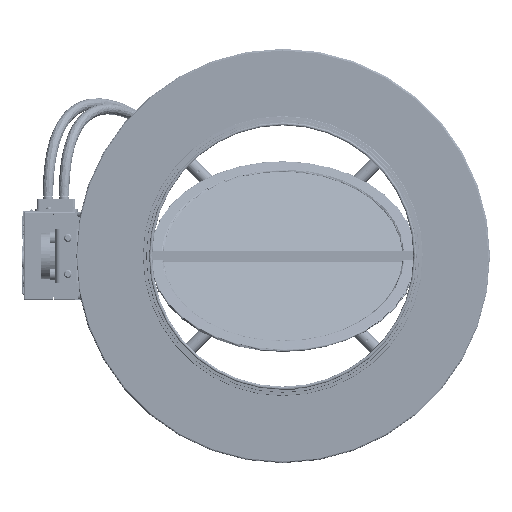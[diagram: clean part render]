
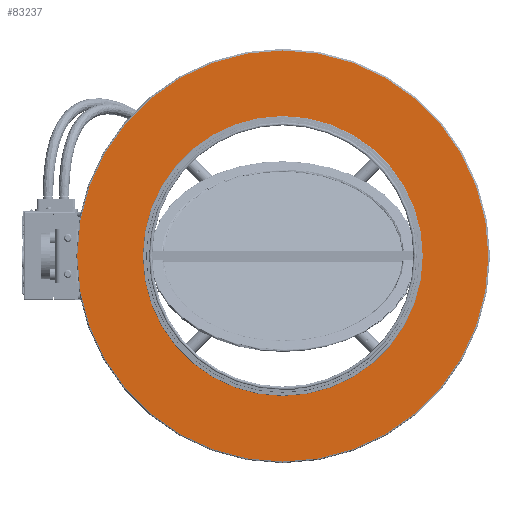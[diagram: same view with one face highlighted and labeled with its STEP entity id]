
A CAD part, left-side view. The second image highlights one B-rep face of the part: STEP entity #83237.
In plain terms, the highlighted planar face has unit normal (-1, 0, 0) as drawn and (0, -1, 0) by its records, which use the part's own axes.
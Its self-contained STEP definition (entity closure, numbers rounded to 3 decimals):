
#15656 = EDGE_CURVE ( 'NONE', #213957, #213957, #284507, .T. ) ;
#23297 = DIRECTION ( 'NONE',  ( 0., -1., 0. ) ) ;
#27935 = EDGE_CURVE ( 'NONE', #181558, #181558, #356322, .T. ) ;
#49899 = DIRECTION ( 'NONE',  ( 1., 0., 0. ) ) ;
#55758 = PLANE ( 'NONE',  #221061 ) ;
#83237 = ADVANCED_FACE ( 'NONE', ( #109394, #317814 ), #55758, .T. ) ;
#93558 = CARTESIAN_POINT ( 'NONE',  ( 104., 0., 0. ) ) ;
#105430 = DIRECTION ( 'NONE',  ( 0., -1., 0. ) ) ;
#109394 = FACE_OUTER_BOUND ( 'NONE', #275176, .T. ) ;
#120837 = CARTESIAN_POINT ( 'NONE',  ( -50., 0., 0. ) ) ;
#133724 = ORIENTED_EDGE ( 'NONE', *, *, #15656, .T. ) ;
#168818 = ORIENTED_EDGE ( 'NONE', *, *, #27935, .F. ) ;
#181558 = VERTEX_POINT ( 'NONE', #324976 ) ;
#195546 = CARTESIAN_POINT ( 'NONE',  ( 0., 0., 0. ) ) ;
#213957 = VERTEX_POINT ( 'NONE', #93558 ) ;
#221061 = AXIS2_PLACEMENT_3D ( 'NONE', #195546, #23297, #229685 ) ;
#229685 = DIRECTION ( 'NONE',  ( 1., 0., 0. ) ) ;
#242973 = DIRECTION ( 'NONE',  ( 1., 0., 0. ) ) ;
#271016 = AXIS2_PLACEMENT_3D ( 'NONE', #120837, #271838, #242973 ) ;
#271838 = DIRECTION ( 'NONE',  ( 0., -1., 0. ) ) ;
#275176 = EDGE_LOOP ( 'NONE', ( #133724 ) ) ;
#284507 = CIRCLE ( 'NONE', #376043, 154. ) ;
#317814 = FACE_BOUND ( 'NONE', #335092, .T. ) ;
#324976 = CARTESIAN_POINT ( 'NONE',  ( 50., 0., 0. ) ) ;
#335092 = EDGE_LOOP ( 'NONE', ( #168818 ) ) ;
#336739 = CARTESIAN_POINT ( 'NONE',  ( -50., 0., 0. ) ) ;
#356322 = CIRCLE ( 'NONE', #271016, 100. ) ;
#376043 = AXIS2_PLACEMENT_3D ( 'NONE', #336739, #105430, #49899 ) ;
